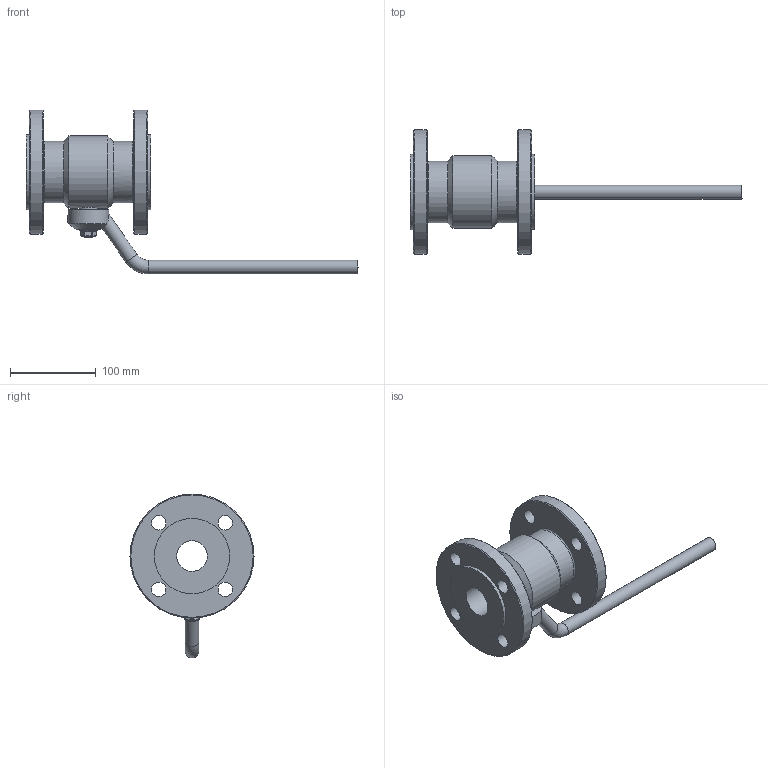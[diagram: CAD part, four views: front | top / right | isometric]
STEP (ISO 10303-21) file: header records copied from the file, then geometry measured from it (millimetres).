
FILE_DESCRIPTION(('STEP AP203'), '1');
FILE_NAME('ZARD 040.016.21.P.stp', '2013-12-06T06:47:30', ('User'), ('Computer'), 'ASCON STEP Converter 1.3', 'Kompas 3D', '');
FILE_SCHEMA(('CONFIG_CONTROL_DESIGN','SUPPORT_RESOURCE_SCHEMA'));
Length unit declared in the file: millimetre
Products named in the file (1): 88
Bounding box: 388.01 x 145 x 191.5 mm (x, y, z)
Volume: 963543 mm3; surface area: 150539.3 mm2
Topology: 1 solids, 2 shells, 161 faces, 377 edges, 236 vertices
Faces by surface type: plane 74, cylinder 57, cone 20, torus 10
Full cylindrical faces by diameter (mm): 6 x1, 10 x2, 16 x3, 16.1 x1, 17 x8, 21.8 x1, 22 x2, 24.3 x1, 24.5 x1, 36 x2, 48 x1, 58.4 x1, 72 x2, 84.5 x1, 88 x2, 145 x2
Entity records: 5950 total; most frequent: CARTESIAN_POINT 2084, DIRECTION 817, ORIENTED_EDGE 754, EDGE_CURVE 377, AXIS2_PLACEMENT_3D 319, VERTEX_POINT 236, EDGE_LOOP 199, LINE 179
